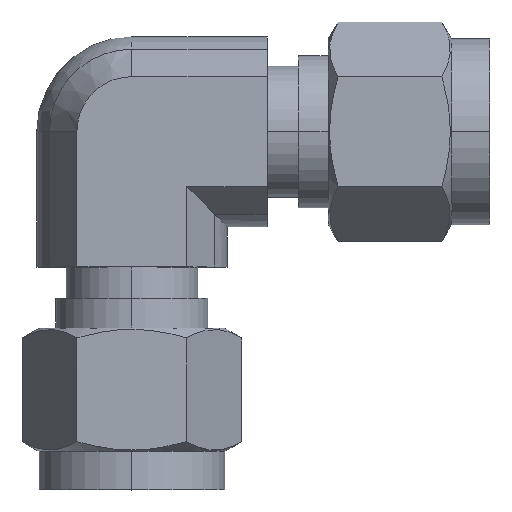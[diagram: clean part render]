
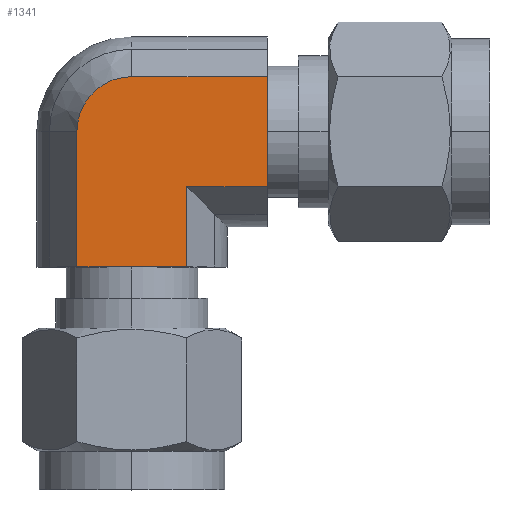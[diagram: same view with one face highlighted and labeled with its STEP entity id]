
A CAD part, top view. The second image highlights one B-rep face of the part: STEP entity #1341.
In plain terms, the highlighted planar face has unit normal (0, 0, 1).
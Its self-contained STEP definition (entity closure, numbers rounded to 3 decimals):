
#291 = CARTESIAN_POINT ( 'NONE',  ( 4.59, -11.3, 7.95 ) ) ;
#292 = DIRECTION ( 'NONE',  ( 0., 1., 0. ) ) ;
#293 = VECTOR ( 'NONE', #292, 1000. ) ;
#294 = CARTESIAN_POINT ( 'NONE',  ( 4.59, -11.3, 7.95 ) ) ;
#295 = LINE ( 'NONE', #294, #293 ) ;
#336 = CARTESIAN_POINT ( 'NONE',  ( 4.59, -4.59, 7.95 ) ) ;
#825 = CARTESIAN_POINT ( 'NONE',  ( 11.3, 4.59, 7.95 ) ) ;
#826 = DIRECTION ( 'NONE',  ( 0., -1., 0. ) ) ;
#827 = VECTOR ( 'NONE', #826, 1000. ) ;
#828 = CARTESIAN_POINT ( 'NONE',  ( 11.3, 4.59, 7.95 ) ) ;
#829 = LINE ( 'NONE', #828, #827 ) ;
#830 = CARTESIAN_POINT ( 'NONE',  ( 11.3, -4.59, 7.95 ) ) ;
#831 = DIRECTION ( 'NONE',  ( -1., 0., 0. ) ) ;
#832 = VECTOR ( 'NONE', #831, 1000. ) ;
#833 = CARTESIAN_POINT ( 'NONE',  ( 11.3, -4.59, 7.95 ) ) ;
#834 = DIRECTION ( 'NONE',  ( 0., 1., 0. ) ) ;
#835 = DIRECTION ( 'NONE',  ( 0., 0., -1. ) ) ;
#836 = CARTESIAN_POINT ( 'NONE',  ( 4.59, -11.3, 7.95 ) ) ;
#837 = AXIS2_PLACEMENT_3D ( 'NONE', #836, #835, #834 ) ;
#838 = PLANE ( 'NONE',  #837 ) ;
#839 = LINE ( 'NONE', #833, #832 ) ;
#840 = FACE_OUTER_BOUND ( 'NONE', #1342, .T. ) ;
#916 = DIRECTION ( 'NONE',  ( 0., 1., 0. ) ) ;
#917 = VECTOR ( 'NONE', #916, 1000. ) ;
#918 = CARTESIAN_POINT ( 'NONE',  ( -4.59, -11.3, 7.95 ) ) ;
#919 = LINE ( 'NONE', #918, #917 ) ;
#920 = CARTESIAN_POINT ( 'NONE',  ( -4.59, 0., 7.95 ) ) ;
#921 = DIRECTION ( 'NONE',  ( 0., 1., 0. ) ) ;
#922 = DIRECTION ( 'NONE',  ( 0., 0., -1. ) ) ;
#923 = CARTESIAN_POINT ( 'NONE',  ( 0., 0., 7.95 ) ) ;
#924 = AXIS2_PLACEMENT_3D ( 'NONE', #923, #922, #921 ) ;
#925 = CIRCLE ( 'NONE', #924, 4.59 ) ;
#926 = CARTESIAN_POINT ( 'NONE',  ( 0., 4.59, 7.95 ) ) ;
#927 = DIRECTION ( 'NONE',  ( -1., 0., 0. ) ) ;
#928 = VECTOR ( 'NONE', #927, 1000. ) ;
#929 = CARTESIAN_POINT ( 'NONE',  ( 11.3, 4.59, 7.95 ) ) ;
#930 = LINE ( 'NONE', #929, #928 ) ;
#1013 = EDGE_CURVE ( 'NONE', #1543, #1014, #1761, .T. ) ;
#1014 = VERTEX_POINT ( 'NONE', #1745 ) ;
#1341 = ADVANCED_FACE ( 'NONE', ( #840 ), #838, .F. ) ;
#1342 = EDGE_LOOP ( 'NONE', ( #1343, #1344, #1347, #1362, #1365, #1368, #1370 ) ) ;
#1343 = ORIENTED_EDGE ( 'NONE', *, *, #1542, .T. ) ;
#1344 = ORIENTED_EDGE ( 'NONE', *, *, #1345, .F. ) ;
#1345 = EDGE_CURVE ( 'NONE', #1346, #1568, #839, .T. ) ;
#1346 = VERTEX_POINT ( 'NONE', #830 ) ;
#1347 = ORIENTED_EDGE ( 'NONE', *, *, #1348, .F. ) ;
#1348 = EDGE_CURVE ( 'NONE', #1349, #1346, #829, .T. ) ;
#1349 = VERTEX_POINT ( 'NONE', #825 ) ;
#1362 = ORIENTED_EDGE ( 'NONE', *, *, #1363, .T. ) ;
#1363 = EDGE_CURVE ( 'NONE', #1349, #1364, #930, .T. ) ;
#1364 = VERTEX_POINT ( 'NONE', #926 ) ;
#1365 = ORIENTED_EDGE ( 'NONE', *, *, #1366, .F. ) ;
#1366 = EDGE_CURVE ( 'NONE', #1367, #1364, #925, .T. ) ;
#1367 = VERTEX_POINT ( 'NONE', #920 ) ;
#1368 = ORIENTED_EDGE ( 'NONE', *, *, #1369, .F. ) ;
#1369 = EDGE_CURVE ( 'NONE', #1014, #1367, #919, .T. ) ;
#1370 = ORIENTED_EDGE ( 'NONE', *, *, #1013, .F. ) ;
#1542 = EDGE_CURVE ( 'NONE', #1543, #1568, #295, .T. ) ;
#1543 = VERTEX_POINT ( 'NONE', #291 ) ;
#1568 = VERTEX_POINT ( 'NONE', #336 ) ;
#1745 = CARTESIAN_POINT ( 'NONE',  ( -4.59, -11.3, 7.95 ) ) ;
#1746 = DIRECTION ( 'NONE',  ( -1., 0., 0. ) ) ;
#1759 = VECTOR ( 'NONE', #1746, 1000. ) ;
#1760 = CARTESIAN_POINT ( 'NONE',  ( 4.59, -11.3, 7.95 ) ) ;
#1761 = LINE ( 'NONE', #1760, #1759 ) ;
